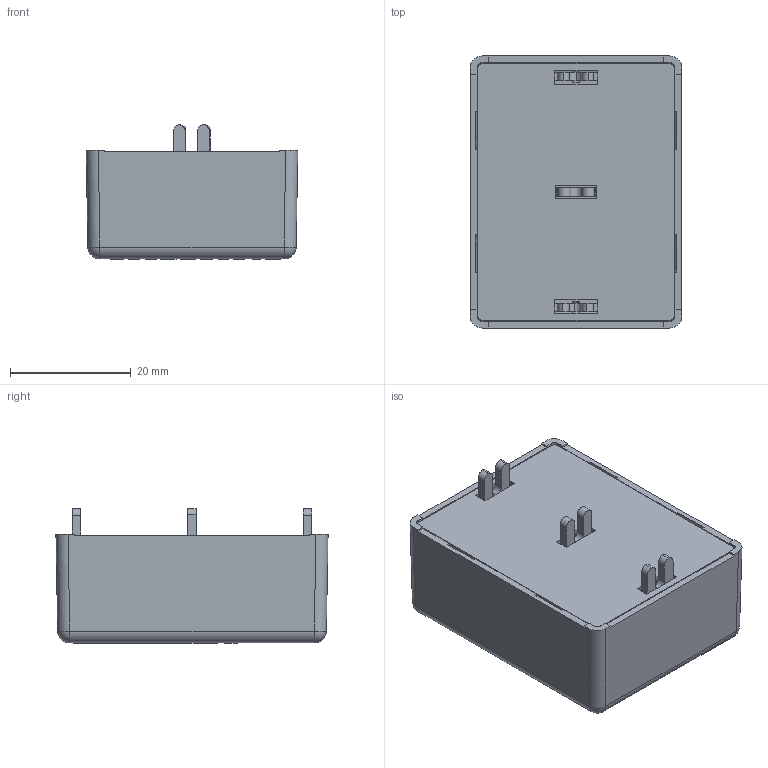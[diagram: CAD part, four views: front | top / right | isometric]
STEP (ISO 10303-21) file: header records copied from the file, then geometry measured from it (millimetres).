
FILE_DESCRIPTION(/* description */ ('Unknown'),/* implementation_level */ '2;1');
FILE_NAME(/* name */ 'SM08B230N203',/* time_stamp */ '2023-04-17T08:08:56+08:00',/* author */ ('Unknown'),/* organization */ ('Unknown'),/* preprocessor_version */ 'ST-DEVELOPER v16.7',/* originating_system */ 'Solid Edge',/* authorisation */ 'Unknown');
FILE_SCHEMA (('AUTOMOTIVE_DESIGN {1 0 10303 214 3 1 1}'));
Length unit declared in the file: millimetre
Products named in the file (5): SM08B230N203; PRT1000002406; PRT1000002402; PRT1000002399; PRT1000002400
Assembly tree (5 placements, depth 2):
  SM08B230N203
    PRT1000002406
    PRT1000002402  x2
    PRT1000002399
    PRT1000002400
Bounding box: 35.01 x 45.01 x 22.25 mm (x, y, z)
Volume: 9022.2 mm3; surface area: 14204.4 mm2
Topology: 5 solids, 5 shells, 1287 faces, 3333 edges, 2190 vertices
Faces by surface type: plane 963, bspline 178, cylinder 107, cone 30, sphere 9
Full cylindrical faces by diameter (mm): 1 x6, 1.067 x1, 1.157 x1, 1.319 x1, 2.4 x6, 2.607 x2
Entity records: 43654 total; most frequent: CARTESIAN_POINT 14250, ORIENTED_EDGE 6348, DIRECTION 5190, EDGE_CURVE 3174, LINE 2546, VECTOR 2546, VERTEX_POINT 2119, EDGE_LOOP 1451
